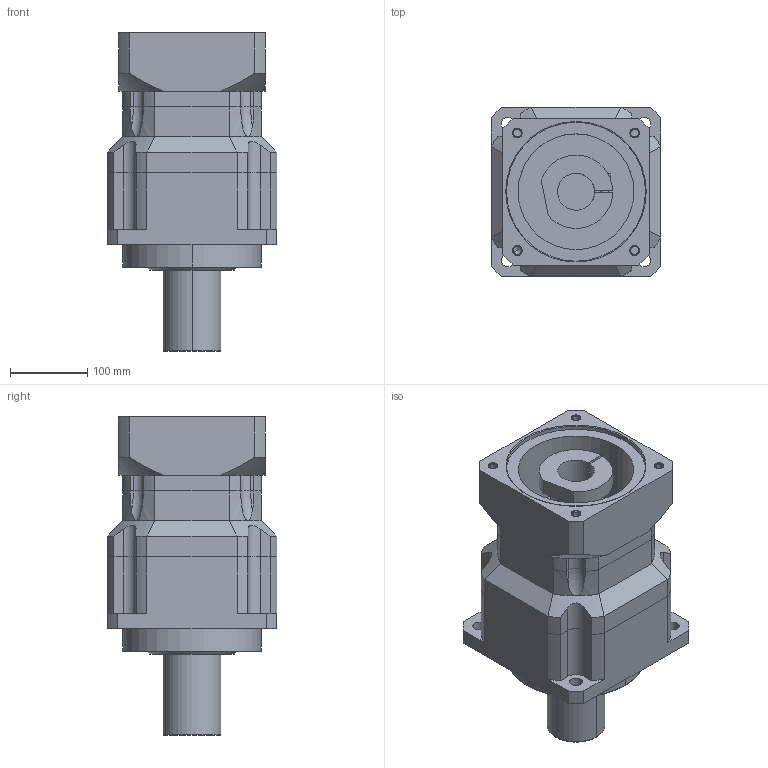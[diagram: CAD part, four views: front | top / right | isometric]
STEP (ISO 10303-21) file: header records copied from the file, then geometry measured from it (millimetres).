
FILE_DESCRIPTION((''),'2;1');
FILE_NAME('AB2202-P4060201_ASM','2005-07-20T',('jacky'),(''),'PRO/ENGINEER BY PARAMETRIC TECHNOLOGY CORPORATION, 2001280','PRO/ENGINEER BY PARAMETRIC TECHNOLOGY CORPORATION, 2001280','');
FILE_SCHEMA(('CONFIG_CONTROL_DESIGN'));
Length unit declared in the file: millimetre
Products named in the file (4): AB2202; AB2202-1; P4060201; AB2202-P4060201_ASM
Assembly tree (3 placements, depth 2):
  AB2202-P4060201_ASM
    AB2202
    AB2202-1
    P4060201
Bounding box: 220 x 220 x 412.5 mm (x, y, z)
Volume: 10018621.3 mm3; surface area: 546997.1 mm2
Topology: 3 solids, 7 shells, 226 faces, 573 edges, 367 vertices
Faces by surface type: cylinder 95, plane 93, cone 24, torus 10, bspline 4
Entity records: 7284 total; most frequent: CARTESIAN_POINT 1568, DIRECTION 1243, ORIENTED_EDGE 1126, EDGE_CURVE 571, AXIS2_PLACEMENT_3D 478, VERTEX_POINT 367, VECTOR 287, LINE 287
